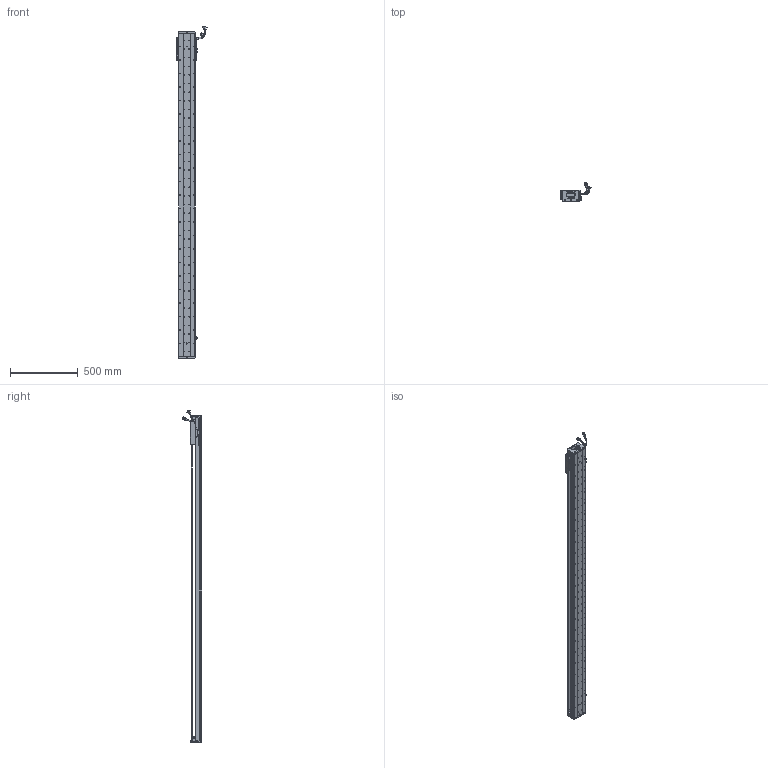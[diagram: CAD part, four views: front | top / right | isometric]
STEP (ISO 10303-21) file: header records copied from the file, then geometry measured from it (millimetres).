
FILE_DESCRIPTION (( 'STEP AP203' ), '1' );
FILE_NAME ('Z2-RY120D-1-L500-B-K.SLDASM_2150.step', '2021-05-17T05:38:07', ( '盈信电脑' ), ( '东莞市道滘镇水果街19号' ), 'SwSTEP 2.0', 'SolidWorks 2016', '' );
FILE_SCHEMA (( 'CONFIG_CONTROL_DESIGN' ));
Length unit declared in the file: millimetre
Products named in the file (37): Z2-RY120-L500詩湍100mm遵_2150; SCREW-M1.7-1; HARNESS; SCREW-M1.6-1; PSLH080_PSLF2; SEAL-Part-1; HARNESS-Part-2; SCREW-M1.6; HARNESS-Part-1; 672嫖萇羲壽假蚾釱; Z2-RY120-500-倰第菁釱_2150; COVER-Part-1; COVER; 080黍杅芛假蚾釱21遴; PBU_SHEET; SCALE; 140蚥薯蝶輸; 覜茼ん672; SCALE-Part-1; 140雄赽晤鎢ん堤盄; Z-RY120D詩湍奻揤裔; Z2-RY120D-1-L500-B-K.SLDASM_2150; SEAL; SCREW-M1.6-3; Z2-RY120铝滑块（21款）; HOLDER0; LABEL; SHIELDPLATE; RY100FB-遵嫖萇覜茼え; 榋妏寠巭燃_暯_M2_2; Z-120詩湍傷裔啣; SCREW-M1.7; Z-RY120D詩湍狟揤裔; LABEL-Part-1; SCALE-Part-2; 120-Z-臏賑輸盄裔(21遴); SCREW-M1.6-2
Assembly tree (43 placements, depth 4):
  Z2-RY120D-1-L500-B-K.SLDASM_2150
    Z2-RY120-500-倰第菁釱_2150
    覜茼ん672  x3
    672嫖萇羲壽假蚾釱  x2
    Z2-RY120铝滑块（21款）
    PSLH080_PSLF2
      SCALE
        SCALE-Part-1
        SCALE-Part-2
      HARNESS
        HARNESS-Part-1
        HARNESS-Part-2
      LABEL
        LABEL-Part-1
      COVER
        COVER-Part-1
      SEAL
        SEAL-Part-1
      榋妏寠巭燃_暯_M2_2
      SHIELDPLATE
      SCREW-M1.7
      SCREW-M1.7-1
      PBU_SHEET
      SCREW-M1.6
      SCREW-M1.6-1
      SCREW-M1.6-2
      SCREW-M1.6-3
      HOLDER0
    080黍杅芛假蚾釱21遴
    120-Z-臏賑輸盄裔(21遴)
    140雄赽晤鎢ん堤盄
    140蚥薯蝶輸  x2
    RY100FB-遵嫖萇覜茼え
    Z-120詩湍傷裔啣  x2
    Z-RY120D詩湍奻揤裔  x2
    Z-RY120D詩湍狟揤裔  x2
    Z2-RY120-L500詩湍100mm遵_2150
Bounding box: 222.88 x 140.94 x 2458.99 mm (x, y, z)
Volume: 5687629.3 mm3; surface area: 2007975 mm2
Topology: 38 solids, 38 shells, 3531 faces, 10008 edges, 6318 vertices
Faces by surface type: cylinder 1820, plane 1227, cone 362, torus 69, bspline 53
Entity records: 117113 total; most frequent: CARTESIAN_POINT 35402, ORIENTED_EDGE 16816, DIRECTION 15506, EDGE_CURVE 8408, AXIS2_PLACEMENT_3D 5722, VERTEX_POINT 5438, LINE 4062, VECTOR 4062
